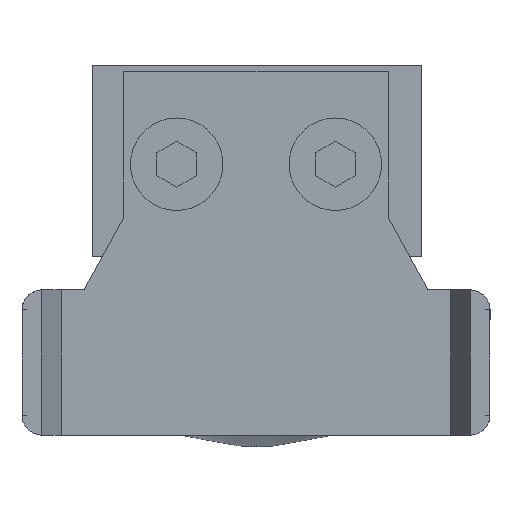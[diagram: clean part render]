
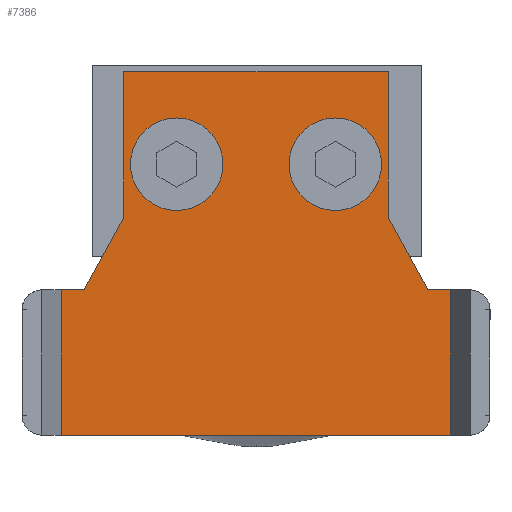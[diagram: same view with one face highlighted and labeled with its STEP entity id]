
A CAD part, left-side view. The second image highlights one B-rep face of the part: STEP entity #7386.
In plain terms, the highlighted planar face has unit normal (-1, 0, 0).
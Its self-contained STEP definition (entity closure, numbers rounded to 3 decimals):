
#79 = CARTESIAN_POINT ( 'NONE',  ( 4., 9.5, -6. ) ) ;
#87 = FACE_OUTER_BOUND ( 'NONE', #7344, .T. ) ;
#233 = ORIENTED_EDGE ( 'NONE', *, *, #2099, .T. ) ;
#254 = VECTOR ( 'NONE', #1179, 1000. ) ;
#375 = LINE ( 'NONE', #6962, #5010 ) ;
#412 = CARTESIAN_POINT ( 'NONE',  ( 4., 0., -13. ) ) ;
#489 = LINE ( 'NONE', #2728, #5319 ) ;
#525 = VERTEX_POINT ( 'NONE', #4043 ) ;
#562 = ORIENTED_EDGE ( 'NONE', *, *, #3163, .T. ) ;
#624 = CIRCLE ( 'NONE', #849, 3.5 ) ;
#638 = CIRCLE ( 'NONE', #986, 3.5 ) ;
#691 = DIRECTION ( 'NONE',  ( -1., 0., 0. ) ) ;
#699 = VERTEX_POINT ( 'NONE', #3466 ) ;
#849 = AXIS2_PLACEMENT_3D ( 'NONE', #1208, #6667, #5467 ) ;
#986 = AXIS2_PLACEMENT_3D ( 'NONE', #79, #691, #1287 ) ;
#1081 = ORIENTED_EDGE ( 'NONE', *, *, #4029, .F. ) ;
#1164 = EDGE_CURVE ( 'NONE', #525, #5754, #5701, .T. ) ;
#1179 = DIRECTION ( 'NONE',  ( 0., 0., -1. ) ) ;
#1208 = CARTESIAN_POINT ( 'NONE',  ( 4., 9.5, 6. ) ) ;
#1287 = DIRECTION ( 'NONE',  ( 0., 0., -1. ) ) ;
#1454 = ORIENTED_EDGE ( 'NONE', *, *, #2094, .F. ) ;
#1491 = CARTESIAN_POINT ( 'NONE',  ( 4., 0., -13. ) ) ;
#1596 = CARTESIAN_POINT ( 'NONE',  ( 4., 9.5, -6. ) ) ;
#1814 = CARTESIAN_POINT ( 'NONE',  ( 4., 0., 0. ) ) ;
#1847 = CARTESIAN_POINT ( 'NONE',  ( 4., -11., 14.744 ) ) ;
#1875 = VERTEX_POINT ( 'NONE', #2034 ) ;
#1899 = VERTEX_POINT ( 'NONE', #3864 ) ;
#1944 = LINE ( 'NONE', #7312, #6495 ) ;
#2034 = CARTESIAN_POINT ( 'NONE',  ( 4., 16.5, 10. ) ) ;
#2041 = EDGE_CURVE ( 'NONE', #1875, #3055, #3948, .T. ) ;
#2057 = CARTESIAN_POINT ( 'NONE',  ( 4., 16.5, 10. ) ) ;
#2094 = EDGE_CURVE ( 'NONE', #5754, #525, #638, .T. ) ;
#2096 = EDGE_LOOP ( 'NONE', ( #4728, #1454 ) ) ;
#2099 = EDGE_CURVE ( 'NONE', #7429, #7413, #1944, .T. ) ;
#2134 = ORIENTED_EDGE ( 'NONE', *, *, #2041, .T. ) ;
#2153 = ORIENTED_EDGE ( 'NONE', *, *, #6214, .F. ) ;
#2332 = EDGE_CURVE ( 'NONE', #6822, #5443, #4608, .T. ) ;
#2410 = VERTEX_POINT ( 'NONE', #1847 ) ;
#2451 = VECTOR ( 'NONE', #7780, 1000. ) ;
#2508 = VECTOR ( 'NONE', #3769, 1000. ) ;
#2728 = CARTESIAN_POINT ( 'NONE',  ( 4., -11., 20. ) ) ;
#2752 = DIRECTION ( 'NONE',  ( 0., 0., 1. ) ) ;
#2783 = DIRECTION ( 'NONE',  ( -1., 0., 0. ) ) ;
#3055 = VERTEX_POINT ( 'NONE', #4676 ) ;
#3163 = EDGE_CURVE ( 'NONE', #3055, #6612, #6770, .T. ) ;
#3187 = CARTESIAN_POINT ( 'NONE',  ( 4., 0., 0. ) ) ;
#3242 = CARTESIAN_POINT ( 'NONE',  ( 4., 5.5, 10. ) ) ;
#3289 = ORIENTED_EDGE ( 'NONE', *, *, #4036, .F. ) ;
#3304 = VECTOR ( 'NONE', #6304, 1000. ) ;
#3466 = CARTESIAN_POINT ( 'NONE',  ( 4., 9.5, 9.5 ) ) ;
#3483 = CARTESIAN_POINT ( 'NONE',  ( 4., 0., -14.744 ) ) ;
#3557 = CARTESIAN_POINT ( 'NONE',  ( 4., -11., -14.744 ) ) ;
#3594 = AXIS2_PLACEMENT_3D ( 'NONE', #1596, #2783, #4052 ) ;
#3683 = DIRECTION ( 'NONE',  ( 0., 0.878, -0.479 ) ) ;
#3752 = CARTESIAN_POINT ( 'NONE',  ( 4., 9.5, 2.5 ) ) ;
#3769 = DIRECTION ( 'NONE',  ( 0., -1., 0. ) ) ;
#3809 = VERTEX_POINT ( 'NONE', #412 ) ;
#3864 = CARTESIAN_POINT ( 'NONE',  ( 4., 0., 14.744 ) ) ;
#3948 = LINE ( 'NONE', #4127, #254 ) ;
#3951 = DIRECTION ( 'NONE',  ( 0., 0., 1. ) ) ;
#4029 = EDGE_CURVE ( 'NONE', #4391, #699, #624, .T. ) ;
#4036 = EDGE_CURVE ( 'NONE', #5443, #3809, #6287, .T. ) ;
#4043 = CARTESIAN_POINT ( 'NONE',  ( 4., 9.5, -9.5 ) ) ;
#4052 = DIRECTION ( 'NONE',  ( 0., 0., -1. ) ) ;
#4127 = CARTESIAN_POINT ( 'NONE',  ( 4., 16.5, -10. ) ) ;
#4134 = CARTESIAN_POINT ( 'NONE',  ( 4., 9.5, 6. ) ) ;
#4228 = VECTOR ( 'NONE', #5866, 1000. ) ;
#4295 = ORIENTED_EDGE ( 'NONE', *, *, #6251, .F. ) ;
#4391 = VERTEX_POINT ( 'NONE', #3752 ) ;
#4473 = DIRECTION ( 'NONE',  ( 0., -0.878, -0.479 ) ) ;
#4608 = LINE ( 'NONE', #3483, #4228 ) ;
#4676 = CARTESIAN_POINT ( 'NONE',  ( 4., 16.5, -10. ) ) ;
#4728 = ORIENTED_EDGE ( 'NONE', *, *, #1164, .F. ) ;
#4786 = CARTESIAN_POINT ( 'NONE',  ( 4., 0., -14.744 ) ) ;
#5010 = VECTOR ( 'NONE', #2752, 1000. ) ;
#5065 = DIRECTION ( 'NONE',  ( 1., 0., 0. ) ) ;
#5114 = ORIENTED_EDGE ( 'NONE', *, *, #2332, .F. ) ;
#5121 = CARTESIAN_POINT ( 'NONE',  ( 4., 9.5, -2.5 ) ) ;
#5306 = ORIENTED_EDGE ( 'NONE', *, *, #5924, .T. ) ;
#5319 = VECTOR ( 'NONE', #3951, 1000. ) ;
#5327 = DIRECTION ( 'NONE',  ( -1., 0., 0. ) ) ;
#5443 = VERTEX_POINT ( 'NONE', #4786 ) ;
#5450 = VECTOR ( 'NONE', #6631, 1000. ) ;
#5467 = DIRECTION ( 'NONE',  ( 0., 0., -1. ) ) ;
#5605 = LINE ( 'NONE', #6525, #2451 ) ;
#5701 = CIRCLE ( 'NONE', #3594, 3.5 ) ;
#5704 = LINE ( 'NONE', #2057, #3304 ) ;
#5740 = DIRECTION ( 'NONE',  ( 0., 0., -1. ) ) ;
#5754 = VERTEX_POINT ( 'NONE', #5121 ) ;
#5866 = DIRECTION ( 'NONE',  ( 0., 1., 0. ) ) ;
#5915 = DIRECTION ( 'NONE',  ( 0., 0., -1. ) ) ;
#5924 = EDGE_CURVE ( 'NONE', #6822, #2410, #489, .T. ) ;
#5996 = EDGE_CURVE ( 'NONE', #7413, #1875, #5704, .T. ) ;
#6023 = ORIENTED_EDGE ( 'NONE', *, *, #7564, .F. ) ;
#6214 = EDGE_CURVE ( 'NONE', #1899, #2410, #5605, .T. ) ;
#6251 = EDGE_CURVE ( 'NONE', #699, #4391, #7773, .T. ) ;
#6287 = LINE ( 'NONE', #1814, #5450 ) ;
#6304 = DIRECTION ( 'NONE',  ( 0., 1., 0. ) ) ;
#6495 = VECTOR ( 'NONE', #3683, 1000. ) ;
#6525 = CARTESIAN_POINT ( 'NONE',  ( 4., 0., 14.744 ) ) ;
#6562 = EDGE_CURVE ( 'NONE', #6612, #3809, #7574, .T. ) ;
#6612 = VERTEX_POINT ( 'NONE', #7513 ) ;
#6614 = VECTOR ( 'NONE', #4473, 1000. ) ;
#6627 = EDGE_LOOP ( 'NONE', ( #1081, #4295 ) ) ;
#6631 = DIRECTION ( 'NONE',  ( 0., 0., 1. ) ) ;
#6667 = DIRECTION ( 'NONE',  ( -1., 0., 0. ) ) ;
#6730 = AXIS2_PLACEMENT_3D ( 'NONE', #3187, #5065, #5740 ) ;
#6749 = ORIENTED_EDGE ( 'NONE', *, *, #5996, .T. ) ;
#6770 = LINE ( 'NONE', #7390, #2508 ) ;
#6822 = VERTEX_POINT ( 'NONE', #3557 ) ;
#6825 = PLANE ( 'NONE',  #6730 ) ;
#6938 = ORIENTED_EDGE ( 'NONE', *, *, #6562, .T. ) ;
#6962 = CARTESIAN_POINT ( 'NONE',  ( 4., 0., 0. ) ) ;
#7081 = FACE_BOUND ( 'NONE', #6627, .T. ) ;
#7312 = CARTESIAN_POINT ( 'NONE',  ( 4., 5.5, 10. ) ) ;
#7344 = EDGE_LOOP ( 'NONE', ( #5306, #2153, #6023, #233, #6749, #2134, #562, #6938, #3289, #5114 ) ) ;
#7377 = AXIS2_PLACEMENT_3D ( 'NONE', #4134, #5327, #5915 ) ;
#7386 = ADVANCED_FACE ( 'NONE', ( #87, #7463, #7081 ), #6825, .F. ) ;
#7390 = CARTESIAN_POINT ( 'NONE',  ( 4., 5.5, -10. ) ) ;
#7413 = VERTEX_POINT ( 'NONE', #3242 ) ;
#7429 = VERTEX_POINT ( 'NONE', #7483 ) ;
#7463 = FACE_BOUND ( 'NONE', #2096, .T. ) ;
#7483 = CARTESIAN_POINT ( 'NONE',  ( 4., 0., 13. ) ) ;
#7513 = CARTESIAN_POINT ( 'NONE',  ( 4., 5.5, -10. ) ) ;
#7564 = EDGE_CURVE ( 'NONE', #7429, #1899, #375, .T. ) ;
#7574 = LINE ( 'NONE', #1491, #6614 ) ;
#7773 = CIRCLE ( 'NONE', #7377, 3.5 ) ;
#7780 = DIRECTION ( 'NONE',  ( 0., -1., 0. ) ) ;
